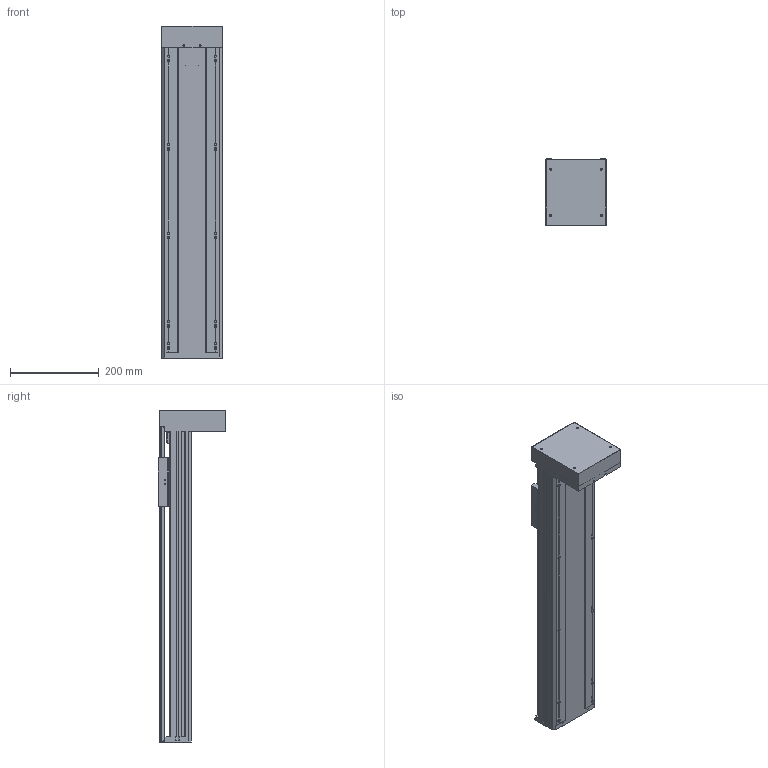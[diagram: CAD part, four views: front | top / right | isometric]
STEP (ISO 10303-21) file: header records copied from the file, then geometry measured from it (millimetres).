
FILE_DESCRIPTION(/* description */ (''),/* implementation_level */ '2;1');
FILE_NAME(/* name */ 'TKA136-FD-500_asm1.stp',/* time_stamp */ '2016-05-07T09:23:48+08:00',/* author */ (''),/* organization */ (''),/* preprocessor_version */ 'ST-DEVELOPER v15',/* originating_system */ 'SIEMENS PLM Software NX 8.5',/* authorisation */ '');
FILE_SCHEMA (('AUTOMOTIVE_DESIGN { 1 0 10303 214 3 1 1 1 }'));
Length unit declared in the file: millimetre
Products named in the file (3): 100-02; 100-01; TKA136-FD-500_asm1
Assembly tree (2 placements, depth 2):
  TKA136-FD-500_asm1
    100-01
    100-02
Bounding box: 136 x 152 x 750 mm (x, y, z)
Volume: 2504851 mm3; surface area: 971978.3 mm2
Topology: 2 solids, 13 shells, 928 faces, 2585 edges, 1665 vertices
Faces by surface type: cylinder 441, plane 422, cone 65
Full cylindrical faces by diameter (mm): 3 x2, 3.3 x13, 4 x4, 4.2 x8, 4.5 x14, 5 x10, 5.5 x26, 6.6 x14, 8 x12, 10 x9, 10.5 x10, 11 x4, 11.6 x1, 12 x9, 15 x3, 16 x5, 17 x1, 24 x5, 26 x1, 28 x1, 46 x1, 50 x2
Entity records: 31098 total; most frequent: CARTESIAN_POINT 8042, DIRECTION 4840, ORIENTED_EDGE 4542, EDGE_CURVE 2271, AXIS2_PLACEMENT_3D 1831, VERTEX_POINT 1576, EDGE_LOOP 1308, LINE 1178
